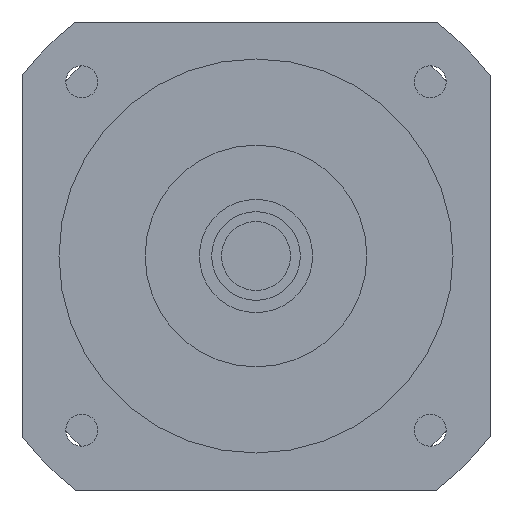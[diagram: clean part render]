
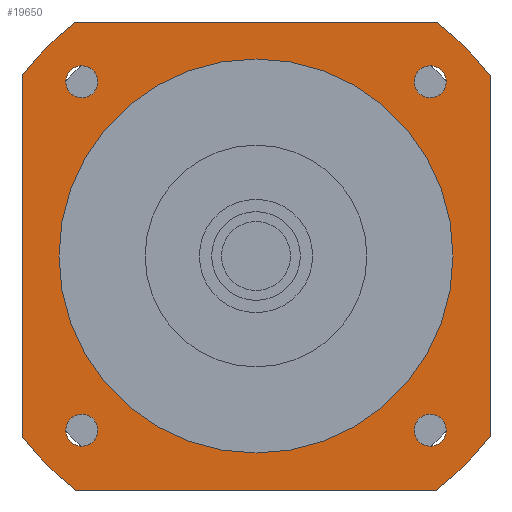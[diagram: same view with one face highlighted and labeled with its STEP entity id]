
A CAD part, left-side view. The second image highlights one B-rep face of the part: STEP entity #19650.
In plain terms, the highlighted planar face has unit normal (-1, 0, 0) as drawn and (0, 0, -1) by its records, which use the part's own axes.
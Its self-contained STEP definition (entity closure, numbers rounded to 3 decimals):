
#14150=CARTESIAN_POINT('',(47.5,36.657,-43.));
#14160=VERTEX_POINT('',#14150);
#14210=CARTESIAN_POINT('',(47.5,47.5,-43.));
#14220=DIRECTION('',(0.,-1.,0.));
#14230=VECTOR('',#14220,1000.);
#14240=LINE('',#14210,#14230);
#14250=CARTESIAN_POINT('',(47.5,-36.657,-43.));
#14260=VERTEX_POINT('',#14250);
#14270=EDGE_CURVE('',#14160,#14260,#14240,.T.);
#18070=CARTESIAN_POINT('',(-32.105,35.355,-43.));
#18080=VERTEX_POINT('',#18070);
#18110=CARTESIAN_POINT('',(-35.355,35.355,-43.));
#18120=DIRECTION('',(0.,0.,-1.));
#18130=DIRECTION('',(-1.,0.,0.));
#18140=AXIS2_PLACEMENT_3D('',#18110,#18120,#18130);
#18150=CIRCLE('',#18140,3.25);
#18160=CARTESIAN_POINT('',(-38.605,35.355,-43.));
#18170=VERTEX_POINT('',#18160);
#18180=EDGE_CURVE('',#18170,#18080,#18150,.T.);
#18300=CARTESIAN_POINT('',(47.5,47.5,-43.));
#18310=DIRECTION('',(0.,0.,-1.));
#18320=DIRECTION('',(1.,0.,0.));
#18330=AXIS2_PLACEMENT_3D('',#18300,#18310,#18320);
#18340=PLANE('',#18330);
#18350=ORIENTED_EDGE('',*,*,#18180,.F.);
#18360=EDGE_CURVE('',#18080,#18170,#18150,.T.);
#18370=ORIENTED_EDGE('',*,*,#18360,.F.);
#18380=EDGE_LOOP('',(#18370,#18350));
#18390=FACE_BOUND('',#18380,.T.);
#18400=CARTESIAN_POINT('',(35.355,35.355,-43.));
#18410=DIRECTION('',(0.,0.,-1.));
#18420=DIRECTION('',(0.,1.,0.));
#18430=AXIS2_PLACEMENT_3D('',#18400,#18410,#18420);
#18440=CIRCLE('',#18430,3.25);
#18450=CARTESIAN_POINT('',(35.355,38.605,-43.));
#18460=VERTEX_POINT('',#18450);
#18470=CARTESIAN_POINT('',(35.355,32.105,-43.));
#18480=VERTEX_POINT('',#18470);
#18490=EDGE_CURVE('',#18460,#18480,#18440,.T.);
#18500=ORIENTED_EDGE('',*,*,#18490,.F.);
#18510=EDGE_CURVE('',#18480,#18460,#18440,.T.);
#18520=ORIENTED_EDGE('',*,*,#18510,.F.);
#18530=EDGE_LOOP('',(#18520,#18500));
#18540=FACE_BOUND('',#18530,.T.);
#18550=CARTESIAN_POINT('',(0.,0.,
-43.));
#18560=DIRECTION('',(0.,0.,1.));
#18570=DIRECTION('',(0.,1.,0.));
#18580=AXIS2_PLACEMENT_3D('',#18550,#18560,#18570);
#18590=CIRCLE('',#18580,40.);
#18600=CARTESIAN_POINT('',(-40.,0.,-43.));
#18610=VERTEX_POINT('',#18600);
#18620=CARTESIAN_POINT('',(40.,0.,-43.));
#18630=VERTEX_POINT('',#18620);
#18640=EDGE_CURVE('',#18610,#18630,#18590,.T.);
#18650=ORIENTED_EDGE('',*,*,#18640,.T.);
#18660=CARTESIAN_POINT('',(0.,40.,-43.));
#18670=VERTEX_POINT('',#18660);
#18680=EDGE_CURVE('',#18670,#18610,#18590,.T.);
#18690=ORIENTED_EDGE('',*,*,#18680,.T.);
#18700=EDGE_CURVE('',#18630,#18670,#18590,.T.);
#18710=ORIENTED_EDGE('',*,*,#18700,.T.);
#18720=EDGE_LOOP('',(#18710,#18690,#18650));
#18730=FACE_BOUND('',#18720,.T.);
#18740=CARTESIAN_POINT('',(35.355,-35.355,-43.));
#18750=DIRECTION('',(0.,0.,-1.));
#18760=DIRECTION('',(1.,0.,0.));
#18770=AXIS2_PLACEMENT_3D('',#18740,#18750,#18760);
#18780=CIRCLE('',#18770,3.25);
#18790=CARTESIAN_POINT('',(38.605,-35.355,-43.));
#18800=VERTEX_POINT('',#18790);
#18810=CARTESIAN_POINT('',(32.105,-35.355,-43.));
#18820=VERTEX_POINT('',#18810);
#18830=EDGE_CURVE('',#18800,#18820,#18780,.T.);
#18840=ORIENTED_EDGE('',*,*,#18830,.F.);
#18850=EDGE_CURVE('',#18820,#18800,#18780,.T.);
#18860=ORIENTED_EDGE('',*,*,#18850,.F.);
#18870=EDGE_LOOP('',(#18860,#18840));
#18880=FACE_BOUND('',#18870,.T.);
#18890=CARTESIAN_POINT('',(-35.355,-35.355,-43.));
#18900=DIRECTION('',(0.,0.,-1.));
#18910=DIRECTION('',(0.,-1.,0.));
#18920=AXIS2_PLACEMENT_3D('',#18890,#18900,#18910);
#18930=CIRCLE('',#18920,3.25);
#18940=CARTESIAN_POINT('',(-35.355,-38.605,-43.));
#18950=VERTEX_POINT('',#18940);
#18960=CARTESIAN_POINT('',(-35.355,-32.105,-43.));
#18970=VERTEX_POINT('',#18960);
#18980=EDGE_CURVE('',#18950,#18970,#18930,.T.);
#18990=ORIENTED_EDGE('',*,*,#18980,.F.);
#19000=EDGE_CURVE('',#18970,#18950,#18930,.T.);
#19010=ORIENTED_EDGE('',*,*,#19000,.F.);
#19020=EDGE_LOOP('',(#19010,#18990));
#19030=FACE_BOUND('',#19020,.T.);
#19040=CARTESIAN_POINT('',(-47.5,47.5,-43.));
#19050=DIRECTION('',(1.,0.,0.));
#19060=VECTOR('',#19050,1000.);
#19070=LINE('',#19040,#19060);
#19080=CARTESIAN_POINT('',(-36.657,47.5,-43.));
#19090=VERTEX_POINT('',#19080);
#19100=CARTESIAN_POINT('',(36.657,47.5,-43.));
#19110=VERTEX_POINT('',#19100);
#19120=EDGE_CURVE('',#19090,#19110,#19070,.T.);
#19130=ORIENTED_EDGE('',*,*,#19120,.T.);
#19140=CARTESIAN_POINT('',(0.,0.,-43.));
#19150=DIRECTION('',(0.,0.,-1.));
#19160=DIRECTION('',(1.,0.,0.));
#19170=AXIS2_PLACEMENT_3D('',#19140,#19150,#19160);
#19180=CIRCLE('',#19170,60.);
#19190=CARTESIAN_POINT('',(-47.5,36.657,-43.));
#19200=VERTEX_POINT('',#19190);
#19210=EDGE_CURVE('',#19200,#19090,#19180,.T.);
#19220=ORIENTED_EDGE('',*,*,#19210,.T.);
#19230=CARTESIAN_POINT('',(-47.5,-47.5,-43.));
#19240=DIRECTION('',(0.,1.,0.));
#19250=VECTOR('',#19240,1000.);
#19260=LINE('',#19230,#19250);
#19270=CARTESIAN_POINT('',(-47.5,-36.657,-43.));
#19280=VERTEX_POINT('',#19270);
#19290=EDGE_CURVE('',#19280,#19200,#19260,.T.);
#19300=ORIENTED_EDGE('',*,*,#19290,.T.);
#19310=CARTESIAN_POINT('',(0.,0.,-43.));
#19320=DIRECTION('',(0.,0.,-1.));
#19330=DIRECTION('',(1.,0.,0.));
#19340=AXIS2_PLACEMENT_3D('',#19310,#19320,#19330);
#19350=CIRCLE('',#19340,60.);
#19360=CARTESIAN_POINT('',(-36.657,-47.5,-43.));
#19370=VERTEX_POINT('',#19360);
#19380=EDGE_CURVE('',#19370,#19280,#19350,.T.);
#19390=ORIENTED_EDGE('',*,*,#19380,.T.);
#19400=CARTESIAN_POINT('',(47.5,-47.5,-43.));
#19410=DIRECTION('',(-1.,0.,0.));
#19420=VECTOR('',#19410,1000.);
#19430=LINE('',#19400,#19420);
#19440=CARTESIAN_POINT('',(36.657,-47.5,-43.));
#19450=VERTEX_POINT('',#19440);
#19460=EDGE_CURVE('',#19450,#19370,#19430,.T.);
#19470=ORIENTED_EDGE('',*,*,#19460,.T.);
#19480=CARTESIAN_POINT('',(0.,0.,-43.));
#19490=DIRECTION('',(0.,0.,-1.));
#19500=DIRECTION('',(1.,0.,0.));
#19510=AXIS2_PLACEMENT_3D('',#19480,#19490,#19500);
#19520=CIRCLE('',#19510,60.);
#19530=EDGE_CURVE('',#14260,#19450,#19520,.T.);
#19540=ORIENTED_EDGE('',*,*,#19530,.T.);
#19550=ORIENTED_EDGE('',*,*,#14270,.T.);
#19560=CARTESIAN_POINT('',(0.,0.,-43.));
#19570=DIRECTION('',(0.,0.,-1.));
#19580=DIRECTION('',(1.,0.,0.));
#19590=AXIS2_PLACEMENT_3D('',#19560,#19570,#19580);
#19600=CIRCLE('',#19590,60.);
#19610=EDGE_CURVE('',#19110,#14160,#19600,.T.);
#19620=ORIENTED_EDGE('',*,*,#19610,.T.);
#19630=EDGE_LOOP('',(#19620,#19550,#19540,#19470,#19390,#19300,#19220,
#19130));
#19640=FACE_OUTER_BOUND('',#19630,.T.);
#19650=ADVANCED_FACE('',(#18390,#18540,#18730,#18880,#19030,#19640),
#18340,.T.);
